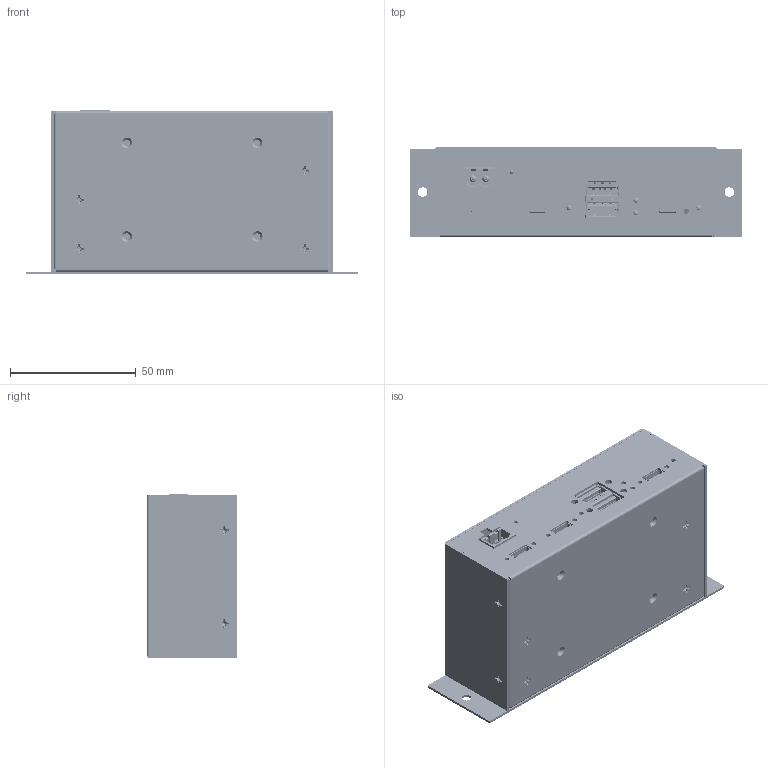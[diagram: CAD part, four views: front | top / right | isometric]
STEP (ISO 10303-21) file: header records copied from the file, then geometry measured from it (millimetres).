
FILE_DESCRIPTION(/* description */ (''),/* implementation_level */ '2;1');
FILE_NAME(/* name */ 'C:/Users/Leo/Desktop/Component55.step',/* time_stamp */ '2021-03-25T09:12:27-04:00',/* author */ (''),/* organization */ (''),/* preprocessor_version */ 'ST-DEVELOPER v18.1',/* originating_system */ 'Autodesk Translation Framework v9.10.0.1330',/* authorisation */ '');
FILE_SCHEMA (('AUTOMOTIVE_DESIGN { 1 0 10303 214 3 1 1 }'));
Products named in the file (1): FusionComponent
Bounding box: 132.25 x 36 x 65.5 mm (x, y, z)
Volume: 63000.2 mm3; surface area: 100436 mm2
Topology: 2 solids, 96 shells, 5287 faces, 14701 edges, 9553 vertices
Faces by surface type: plane 3327, cylinder 1327, bspline 360, cone 234, torus 20, sphere 19
Full cylindrical faces by diameter (mm): 0.5 x6, 1.65 x1, 2 x10, 2.35 x68, 2.529 x10, 2.84 x4, 2.89 x3, 3 x74, 3.15 x8, 3.8 x2, 4 x12, 6 x3
Entity records: 282050 total; most frequent: CARTESIAN_POINT 149721, ORIENTED_EDGE 29372, DIRECTION 24939, EDGE_CURVE 14686, LINE 10225, VECTOR 10225, VERTEX_POINT 9553, AXIS2_PLACEMENT_3D 7357
